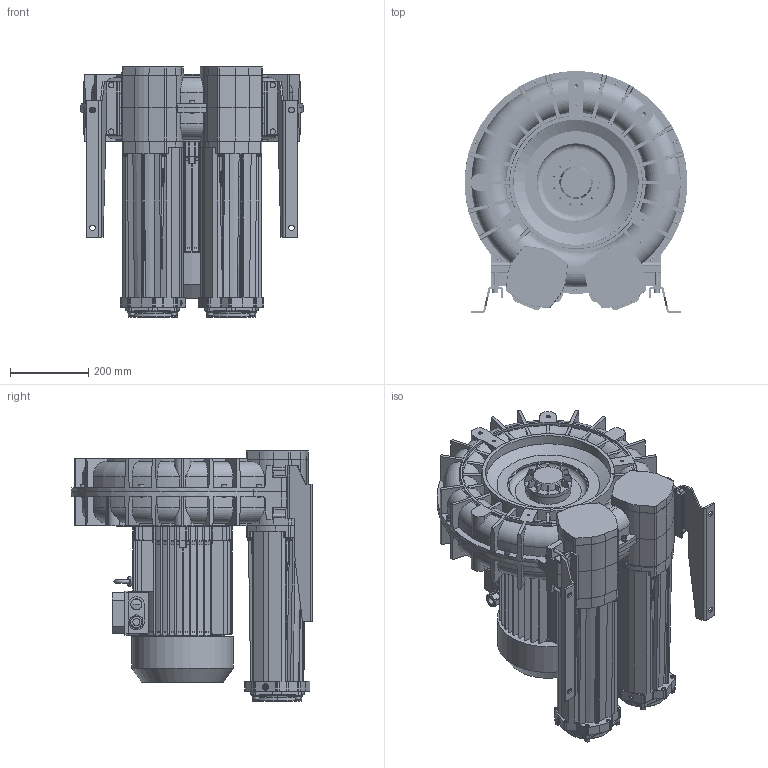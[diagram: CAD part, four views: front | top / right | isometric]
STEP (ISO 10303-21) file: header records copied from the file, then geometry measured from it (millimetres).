
FILE_DESCRIPTION (( 'STEP AP203' ), '1' );
FILE_NAME ('STP-L_e_11_MS_MOR_IE3WR_132_15kW-3_24-00.step', '2025-01-14T09:25:59', ( '' ), ( '' ), 'SwSTEP 2.0', 'SolidWorks 2024', '' );
FILE_SCHEMA (( 'CONFIG_CONTROL_DESIGN' ));
Length unit declared in the file: millimetre
Products named in the file (1): STP-L_e_11_MS_MOR_IE3WR_132_15kW-3_24-00
Bounding box: 568 x 616 x 638 mm (x, y, z)
Volume: 66871216 mm3; surface area: 3823311.3 mm2
Topology: 83 solids, 83 shells, 5916 faces, 15251 edges, 9519 vertices
Faces by surface type: plane 2076, cylinder 1970, bspline 826, torus 501, cone 486, sphere 57
Full cylindrical faces by diameter (mm): 6.8 x24, 7.5 x8, 8 x33, 8.4 x29, 8.5 x10, 8.566 x2, 8.8 x4, 9.98 x2, 10 x3, 11 x8, 12 x2, 12.02 x2, 13 x46, 14 x14, 16 x4, 16.5 x2, 18 x1, 19 x1, 20 x2, 21.4 x1, 24 x4, 25 x3, 28 x1, 110.4 x2, 115 x2, 120 x1, 128 x2, 207 x4, 213 x1, 259 x1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
Entity records: 279089 total; most frequent: CARTESIAN_POINT 145879, ORIENTED_EDGE 29084, DIRECTION 25676, EDGE_CURVE 14542, AXIS2_PLACEMENT_3D 9794, VERTEX_POINT 9312, EDGE_LOOP 6588, FACE_OUTER_BOUND 6213
